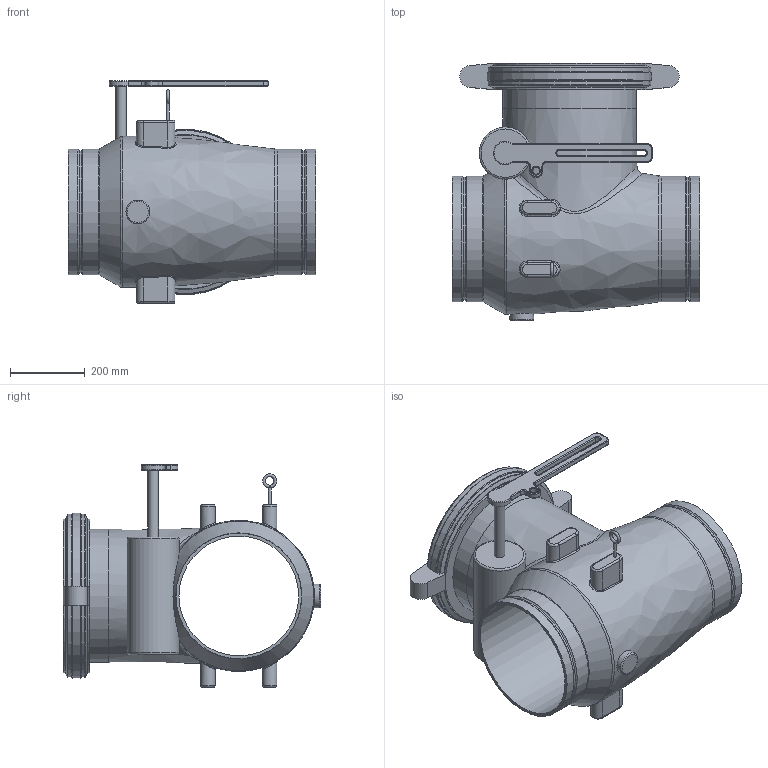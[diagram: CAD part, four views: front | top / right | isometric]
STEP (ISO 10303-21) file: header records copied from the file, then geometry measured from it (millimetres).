
FILE_DESCRIPTION(/* description */ ('VIC AWWA VALVE CHECK SPRING AND LEVER SERIES 317 (DRG)','CAx-IF Rec.Pracs.---Representation and Presentation of Product Manufacturing Information (PMI)---4.0---2014-10-13'),/* implementation_level */ '2;1');
FILE_NAME(/* name */ 'C:\Users\Vjadhav\Desktop\CAD for Inventor\1\317\STEP\Victaulic_AWWA_Valve Check Spring and Lever_Series 317 (DRG)\Victaulic_AWWA_Valve Check Spring and Lever_Series 317 (DRG)_12 (300).stp',/* time_stamp */ '2021-10-01T17:34:57+05:00',/* author */ ('jbrannon'),/* organization */ ('Victaulic'),/* preprocessor_version */ 'ST-DEVELOPER v17.2',/* originating_system */ 'Autodesk Inventor 2019',/* authorisation */ '');
FILE_SCHEMA (('AP242_MANAGED_MODEL_BASED_3D_ENGINEERING_MIM_LF { 1 0 10303 442 1 1 4 }'));
Length unit declared in the file: inch
Products named in the file (1): 317-12.0
Bounding box: 660.4 x 686.82 x 595.12 mm (x, y, z)
Volume: 55208883.7 mm3; surface area: 2139482.4 mm2
Topology: 1 solids, 1 shells, 188 faces, 483 edges, 303 vertices
Faces by surface type: cylinder 65, torus 50, plane 37, bspline 26, cone 10
Full cylindrical faces by diameter (mm): 7.62 x1, 19.177 x1, 28.575 x1, 63.5 x1, 139.192 x1, 319.532 x1, 327.812 x2, 335.28 x4, 355.6 x1
Entity records: 7858 total; most frequent: CARTESIAN_POINT 3072, DIRECTION 967, ORIENTED_EDGE 966, EDGE_CURVE 483, AXIS2_PLACEMENT_3D 414, VERTEX_POINT 303, CIRCLE 238, EDGE_LOOP 202
